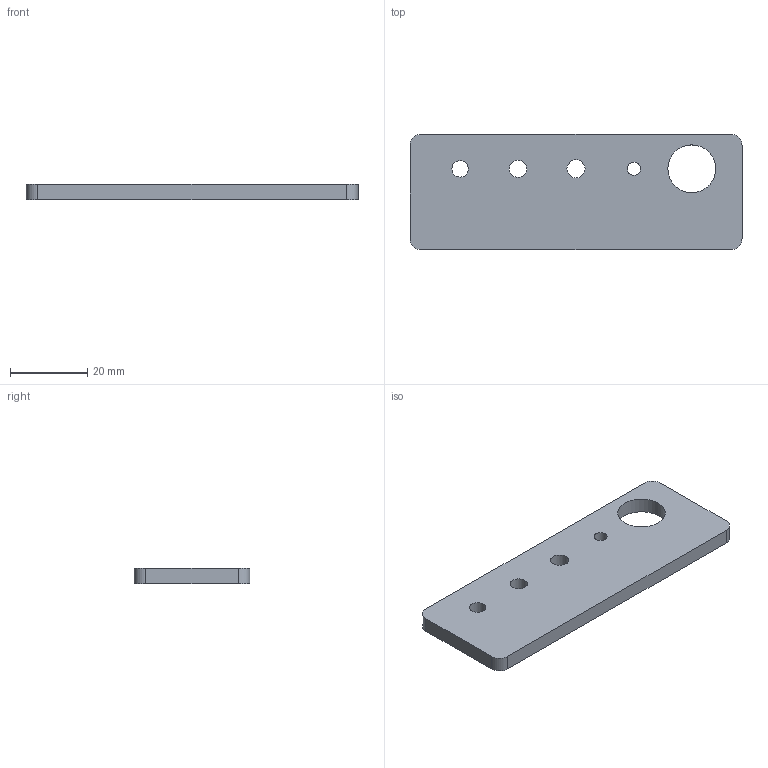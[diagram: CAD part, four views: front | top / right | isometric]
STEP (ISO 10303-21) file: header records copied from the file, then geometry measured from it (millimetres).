
FILE_DESCRIPTION(('Open CASCADE Model'),'2;1');
FILE_NAME('Open CASCADE Shape Model','2026-10-06T09:41:55',('Author'),( 'Open CASCADE'),'Open CASCADE STEP processor 7.8','Open CASCADE 7.8' ,'Unknown');
FILE_SCHEMA(('AUTOMOTIVE_DESIGN { 1 0 10303 214 1 1 1 1 }'));
Length unit declared in the file: millimetre
Products named in the file (1): Open CASCADE STEP translator 7.8 9
Bounding box: 86 x 30 x 4 mm (x, y, z)
Volume: 9578.6 mm3; surface area: 6064.9 mm2
Topology: 1 solids, 1 shells, 15 faces, 39 edges, 26 vertices
Faces by surface type: cylinder 9, plane 6
Full cylindrical faces by diameter (mm): 3.4 x1, 4.3 x1, 4.5 x1, 4.7 x1, 12.4 x1
Entity records: 1044 total; most frequent: CARTESIAN_POINT 231, DIRECTION 155, LINE 81, VECTOR 81, ORIENTED_EDGE 78, PCURVE 78, DEFINITIONAL_REPRESENTATION 78, EDGE_CURVE 39
